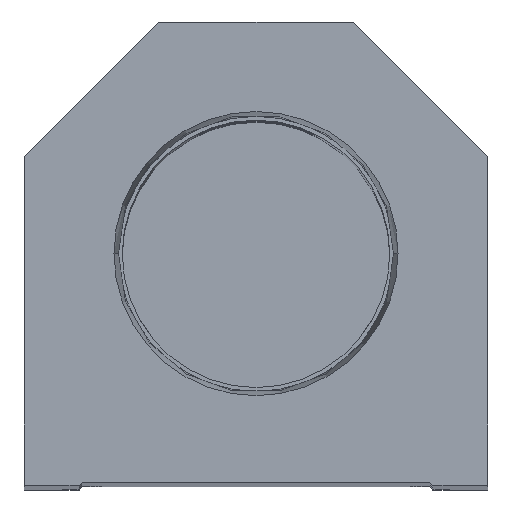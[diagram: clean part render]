
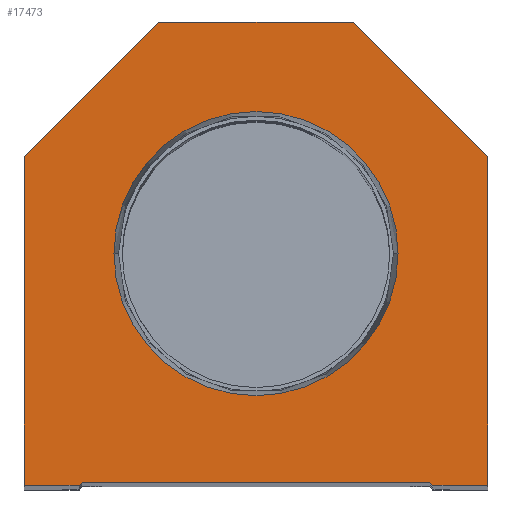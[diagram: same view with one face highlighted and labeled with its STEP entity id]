
A CAD part, top view. The second image highlights one B-rep face of the part: STEP entity #17473.
In plain terms, the highlighted planar face has unit normal (0, 0, 1).
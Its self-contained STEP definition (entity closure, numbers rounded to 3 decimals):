
#260 = ORIENTED_EDGE ( 'NONE', *, *, #15145, .T. ) ;
#342 = DIRECTION ( 'NONE',  ( 1., 0., 0. ) ) ;
#713 = CARTESIAN_POINT ( 'NONE',  ( -38.1, 54.1, 0. ) ) ;
#822 = VERTEX_POINT ( 'NONE', #22035 ) ;
#887 = CIRCLE ( 'NONE', #22663, 23.374 ) ;
#1263 = CARTESIAN_POINT ( 'NONE',  ( -28.6, 0.5, 0. ) ) ;
#1319 = CARTESIAN_POINT ( 'NONE',  ( 23.374, 38.1, 0. ) ) ;
#1552 = LINE ( 'NONE', #5092, #16863 ) ;
#1926 = VERTEX_POINT ( 'NONE', #18005 ) ;
#2018 = VERTEX_POINT ( 'NONE', #19595 ) ;
#2173 = EDGE_CURVE ( 'NONE', #19631, #1926, #17029, .T. ) ;
#2237 = CARTESIAN_POINT ( 'NONE',  ( 16., 76.2, 0. ) ) ;
#2729 = VERTEX_POINT ( 'NONE', #2237 ) ;
#2986 = DIRECTION ( 'NONE',  ( 0., 0., 1. ) ) ;
#3144 = CARTESIAN_POINT ( 'NONE',  ( -16., 76.2, 0. ) ) ;
#3662 = VECTOR ( 'NONE', #18748, 1000. ) ;
#3804 = ORIENTED_EDGE ( 'NONE', *, *, #11278, .T. ) ;
#3853 = EDGE_CURVE ( 'NONE', #23092, #822, #22478, .T. ) ;
#3920 = LINE ( 'NONE', #7587, #3662 ) ;
#4234 = CARTESIAN_POINT ( 'NONE',  ( 28.6, 0., 0. ) ) ;
#4335 = DIRECTION ( 'NONE',  ( 0., -1., 0. ) ) ;
#4483 = ORIENTED_EDGE ( 'NONE', *, *, #9475, .T. ) ;
#4742 = EDGE_CURVE ( 'NONE', #2729, #19631, #20120, .T. ) ;
#5051 = EDGE_LOOP ( 'NONE', ( #12987, #19993 ) ) ;
#5092 = CARTESIAN_POINT ( 'NONE',  ( 14.55, 14.55, 0. ) ) ;
#5933 = CARTESIAN_POINT ( 'NONE',  ( 0., 38.1, 0. ) ) ;
#6072 = CARTESIAN_POINT ( 'NONE',  ( -38.1, 0., 0. ) ) ;
#6787 = EDGE_CURVE ( 'NONE', #822, #21020, #16359, .T. ) ;
#7087 = ORIENTED_EDGE ( 'NONE', *, *, #13204, .T. ) ;
#7228 = ORIENTED_EDGE ( 'NONE', *, *, #17180, .T. ) ;
#7359 = LINE ( 'NONE', #22174, #11938 ) ;
#7512 = VERTEX_POINT ( 'NONE', #23671 ) ;
#7550 = VECTOR ( 'NONE', #11558, 1000. ) ;
#7587 = CARTESIAN_POINT ( 'NONE',  ( 38.1, 0., 0. ) ) ;
#7873 = DIRECTION ( 'NONE',  ( 0.707, 0.707, 0. ) ) ;
#8292 = VECTOR ( 'NONE', #10910, 1000. ) ;
#8813 = CARTESIAN_POINT ( 'NONE',  ( 29.1, 0., 0. ) ) ;
#9166 = CIRCLE ( 'NONE', #22763, 23.374 ) ;
#9475 = EDGE_CURVE ( 'NONE', #11214, #11215, #11660, .T. ) ;
#10439 = DIRECTION ( 'NONE',  ( 1., 0., 0. ) ) ;
#10828 = VECTOR ( 'NONE', #4335, 1000. ) ;
#10890 = DIRECTION ( 'NONE',  ( -0.707, 0.707, 0. ) ) ;
#10910 = DIRECTION ( 'NONE',  ( 1., 0., 0. ) ) ;
#11214 = VERTEX_POINT ( 'NONE', #8813 ) ;
#11215 = VERTEX_POINT ( 'NONE', #12201 ) ;
#11278 = EDGE_CURVE ( 'NONE', #11215, #22780, #3920, .T. ) ;
#11558 = DIRECTION ( 'NONE',  ( -0.707, -0.707, 0. ) ) ;
#11660 = LINE ( 'NONE', #4234, #13012 ) ;
#11938 = VECTOR ( 'NONE', #10890, 1000. ) ;
#12201 = CARTESIAN_POINT ( 'NONE',  ( 38.1, 0., 0. ) ) ;
#12237 = FACE_OUTER_BOUND ( 'NONE', #17459, .T. ) ;
#12677 = VECTOR ( 'NONE', #7873, 1000. ) ;
#12771 = DIRECTION ( 'NONE',  ( 0.707, -0.707, 0. ) ) ;
#12987 = ORIENTED_EDGE ( 'NONE', *, *, #13391, .F. ) ;
#13012 = VECTOR ( 'NONE', #13709, 1000. ) ;
#13204 = EDGE_CURVE ( 'NONE', #2018, #23092, #16137, .T. ) ;
#13391 = EDGE_CURVE ( 'NONE', #19623, #7512, #9166, .T. ) ;
#13709 = DIRECTION ( 'NONE',  ( 1., 0., 0. ) ) ;
#14056 = FACE_BOUND ( 'NONE', #5051, .T. ) ;
#14246 = ORIENTED_EDGE ( 'NONE', *, *, #2173, .T. ) ;
#15145 = EDGE_CURVE ( 'NONE', #22780, #2729, #7359, .T. ) ;
#15740 = VECTOR ( 'NONE', #23558, 1000. ) ;
#15808 = ORIENTED_EDGE ( 'NONE', *, *, #4742, .T. ) ;
#16137 = LINE ( 'NONE', #18080, #15740 ) ;
#16202 = DIRECTION ( 'NONE',  ( 1., 0., 0. ) ) ;
#16253 = CARTESIAN_POINT ( 'NONE',  ( 0., 0., 0. ) ) ;
#16359 = LINE ( 'NONE', #1263, #8292 ) ;
#16454 = EDGE_CURVE ( 'NONE', #7512, #19623, #887, .T. ) ;
#16863 = VECTOR ( 'NONE', #12771, 1000. ) ;
#17013 = DIRECTION ( 'NONE',  ( 0., 0., 1. ) ) ;
#17029 = LINE ( 'NONE', #713, #7550 ) ;
#17071 = CARTESIAN_POINT ( 'NONE',  ( 28.6, 0.5, 0. ) ) ;
#17180 = EDGE_CURVE ( 'NONE', #21020, #11214, #1552, .T. ) ;
#17270 = AXIS2_PLACEMENT_3D ( 'NONE', #16253, #2986, #10439 ) ;
#17459 = EDGE_LOOP ( 'NONE', ( #7087, #18846, #23275, #7228, #4483, #3804, #260, #15808, #14246, #20287 ) ) ;
#17473 = ADVANCED_FACE ( 'NONE', ( #14056, #12237 ), #19668, .T. ) ;
#18005 = CARTESIAN_POINT ( 'NONE',  ( -38.1, 54.1, 0. ) ) ;
#18013 = CARTESIAN_POINT ( 'NONE',  ( 0., 38.1, 0. ) ) ;
#18080 = CARTESIAN_POINT ( 'NONE',  ( -28.6, 0., 0. ) ) ;
#18639 = CARTESIAN_POINT ( 'NONE',  ( 16., 76.2, 0. ) ) ;
#18748 = DIRECTION ( 'NONE',  ( 0., 1., 0. ) ) ;
#18754 = CARTESIAN_POINT ( 'NONE',  ( 38.1, 54.1, 0. ) ) ;
#18846 = ORIENTED_EDGE ( 'NONE', *, *, #3853, .T. ) ;
#19078 = LINE ( 'NONE', #6072, #10828 ) ;
#19595 = CARTESIAN_POINT ( 'NONE',  ( -38.1, 0., 0. ) ) ;
#19623 = VERTEX_POINT ( 'NONE', #1319 ) ;
#19631 = VERTEX_POINT ( 'NONE', #3144 ) ;
#19668 = PLANE ( 'NONE',  #17270 ) ;
#19993 = ORIENTED_EDGE ( 'NONE', *, *, #16454, .F. ) ;
#20120 = LINE ( 'NONE', #18639, #20889 ) ;
#20287 = ORIENTED_EDGE ( 'NONE', *, *, #20491, .T. ) ;
#20451 = CARTESIAN_POINT ( 'NONE',  ( -29.1, 0., 0. ) ) ;
#20491 = EDGE_CURVE ( 'NONE', #1926, #2018, #19078, .T. ) ;
#20889 = VECTOR ( 'NONE', #22053, 1000. ) ;
#21020 = VERTEX_POINT ( 'NONE', #17071 ) ;
#22035 = CARTESIAN_POINT ( 'NONE',  ( -28.6, 0.5, 0. ) ) ;
#22053 = DIRECTION ( 'NONE',  ( -1., 0., 0. ) ) ;
#22174 = CARTESIAN_POINT ( 'NONE',  ( 38.1, 54.1, 0. ) ) ;
#22478 = LINE ( 'NONE', #22706, #12677 ) ;
#22663 = AXIS2_PLACEMENT_3D ( 'NONE', #5933, #17013, #342 ) ;
#22706 = CARTESIAN_POINT ( 'NONE',  ( -14.55, 14.55, 0. ) ) ;
#22763 = AXIS2_PLACEMENT_3D ( 'NONE', #18013, #23857, #16202 ) ;
#22780 = VERTEX_POINT ( 'NONE', #18754 ) ;
#23092 = VERTEX_POINT ( 'NONE', #20451 ) ;
#23275 = ORIENTED_EDGE ( 'NONE', *, *, #6787, .T. ) ;
#23558 = DIRECTION ( 'NONE',  ( 1., 0., 0. ) ) ;
#23671 = CARTESIAN_POINT ( 'NONE',  ( -23.374, 38.1, 0. ) ) ;
#23857 = DIRECTION ( 'NONE',  ( 0., 0., 1. ) ) ;
